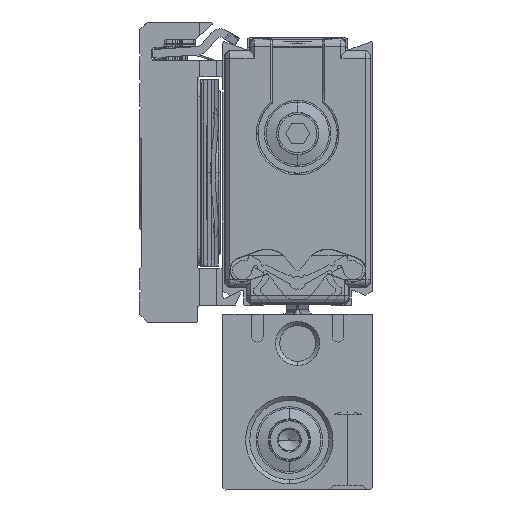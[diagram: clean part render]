
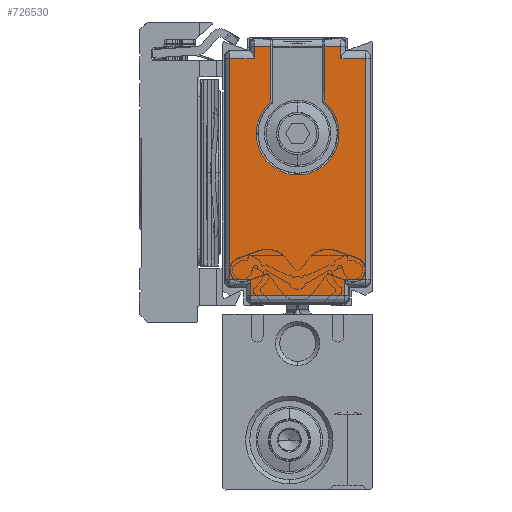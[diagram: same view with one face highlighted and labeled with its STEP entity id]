
A CAD part, left-side view. The second image highlights one B-rep face of the part: STEP entity #726530.
In plain terms, the highlighted planar face has unit normal (-1, 0, 0) as drawn and (0, 0, -1) by its records, which use the part's own axes.
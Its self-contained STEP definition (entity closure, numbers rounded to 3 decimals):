
#685690=CARTESIAN_POINT('',(24.688,30.224,-494.5));
#685700=VERTEX_POINT('',#685690);
#686750=CARTESIAN_POINT('',(31.365,35.75,-494.5));
#686760=DIRECTION('',(0.,-1.,0.));
#686770=VECTOR('',#686760,1.);
#686780=LINE('',#686750,#686770);
#686790=CARTESIAN_POINT('',(31.365,23.776,-494.5));
#686800=VERTEX_POINT('',#686790);
#686810=CARTESIAN_POINT('',(31.365,21.802,-494.5));
#686820=VERTEX_POINT('',#686810);
#686830=EDGE_CURVE('',#686800,#686820,#686780,.T.);
#693590=CARTESIAN_POINT('',(3.435,32.648,-494.5));
#693600=VERTEX_POINT('',#693590);
#693800=CARTESIAN_POINT('',(1.435,32.648,-494.5));
#693810=VERTEX_POINT('',#693800);
#693840=CARTESIAN_POINT('',(3.935,32.648,-494.5));
#693850=CARTESIAN_POINT('',(3.435,32.648,-494.5));
#693860=CARTESIAN_POINT('',(2.935,32.648,-494.5));
#693870=CARTESIAN_POINT('',(2.102,32.648,-494.5));
#693880=CARTESIAN_POINT('',(1.768,32.648,-494.5));
#693890=CARTESIAN_POINT('',(1.435,32.648,-494.5));
#693900=B_SPLINE_CURVE_WITH_KNOTS('',3,(#693840,#693850,#693860,#693870,
#693880,#693890),.UNSPECIFIED.,.F.,.F.,(4,2,4),(37.084,
38.584,39.584),.UNSPECIFIED.);
#693910=EDGE_CURVE('',#693600,#693810,#693900,.T.);
#695250=CARTESIAN_POINT('',(24.688,23.776,-494.5));
#695260=VERTEX_POINT('',#695250);
#697050=CARTESIAN_POINT('',(29.865,35.75,-494.5));
#697060=DIRECTION('',(0.,1.,0.));
#697070=VECTOR('',#697060,1.);
#697080=LINE('',#697050,#697070);
#697090=CARTESIAN_POINT('',(29.865,32.198,-494.5));
#697100=VERTEX_POINT('',#697090);
#697110=CARTESIAN_POINT('',(29.865,35.198,-494.5));
#697120=VERTEX_POINT('',#697110);
#697130=EDGE_CURVE('',#697100,#697120,#697080,.T.);
#698980=CARTESIAN_POINT('',(3.435,35.75,-494.5));
#698990=DIRECTION('',(0.,1.,0.));
#699000=VECTOR('',#698990,1.);
#699010=LINE('',#698980,#699000);
#699020=CARTESIAN_POINT('',(3.435,35.198,-494.5));
#699030=VERTEX_POINT('',#699020);
#699040=EDGE_CURVE('',#693600,#699030,#699010,.T.);
#699470=CARTESIAN_POINT('',(31.365,32.198,-494.5));
#699480=VERTEX_POINT('',#699470);
#699510=CARTESIAN_POINT('',(31.365,30.224,-494.5));
#699520=VERTEX_POINT('',#699510);
#699530=EDGE_CURVE('',#699480,#699520,#686780,.T.);
#700240=CARTESIAN_POINT('',(3.435,18.802,-494.5));
#700250=VERTEX_POINT('',#700240);
#700560=CARTESIAN_POINT('',(3.435,35.75,-494.5));
#700570=DIRECTION('',(0.,-1.,0.));
#700580=VECTOR('',#700570,1.);
#700590=LINE('',#700560,#700580);
#700600=CARTESIAN_POINT('',(3.435,21.352,-494.5));
#700610=VERTEX_POINT('',#700600);
#700620=EDGE_CURVE('',#700610,#700250,#700590,.T.);
#701470=CARTESIAN_POINT('',(1.435,21.352,-494.5));
#701480=VERTEX_POINT('',#701470);
#702950=CARTESIAN_POINT('',(3.935,21.352,-494.5));
#702960=CARTESIAN_POINT('',(3.435,21.352,-494.5));
#702970=CARTESIAN_POINT('',(2.935,21.352,-494.5));
#702980=CARTESIAN_POINT('',(2.102,21.352,-494.5));
#702990=CARTESIAN_POINT('',(1.768,21.352,-494.5));
#703000=CARTESIAN_POINT('',(1.435,21.352,-494.5));
#703010=B_SPLINE_CURVE_WITH_KNOTS('',3,(#702950,#702960,#702970,#702980,
#702990,#703000),.UNSPECIFIED.,.F.,.F.,(4,2,4),(37.084,
38.584,39.584),.UNSPECIFIED.);
#703020=EDGE_CURVE('',#700610,#701480,#703010,.T.);
#704200=CARTESIAN_POINT('',(1.435,35.75,-494.5));
#704210=DIRECTION('',(0.,1.,0.));
#704220=VECTOR('',#704210,1.);
#704230=LINE('',#704200,#704220);
#704240=EDGE_CURVE('',#701480,#693810,#704230,.T.);
#707990=CARTESIAN_POINT('',(0.15,30.224,-494.5));
#708000=DIRECTION('',(1.,0.,0.));
#708010=VECTOR('',#708000,1.);
#708020=LINE('',#707990,#708010);
#708030=EDGE_CURVE('',#685700,#699520,#708020,.T.);
#711770=CARTESIAN_POINT('',(29.865,21.802,-494.5));
#711780=VERTEX_POINT('',#711770);
#711830=CARTESIAN_POINT('',(29.365,21.802,-494.5));
#711840=CARTESIAN_POINT('',(29.782,21.802,-494.5));
#711850=CARTESIAN_POINT('',(30.198,21.802,-494.5));
#711860=CARTESIAN_POINT('',(30.865,21.802,-494.5));
#711870=CARTESIAN_POINT('',(31.115,21.802,-494.5));
#711880=CARTESIAN_POINT('',(31.365,21.802,-494.5));
#711890=B_SPLINE_CURVE_WITH_KNOTS('',3,(#711830,#711840,#711850,#711860,
#711870,#711880),.UNSPECIFIED.,.F.,.F.,(4,2,4),(37.587,
38.837,39.587),.UNSPECIFIED.);
#711900=EDGE_CURVE('',#711780,#686820,#711890,.T.);
#712230=CARTESIAN_POINT('',(29.365,32.198,-494.5));
#712240=CARTESIAN_POINT('',(29.782,32.198,-494.5));
#712250=CARTESIAN_POINT('',(30.198,32.198,-494.5));
#712260=CARTESIAN_POINT('',(30.865,32.198,-494.5));
#712270=CARTESIAN_POINT('',(31.115,32.198,-494.5));
#712280=CARTESIAN_POINT('',(31.365,32.198,-494.5));
#712290=B_SPLINE_CURVE_WITH_KNOTS('',3,(#712230,#712240,#712250,#712260,
#712270,#712280),.UNSPECIFIED.,.F.,.F.,(4,2,4),(37.587,
38.837,39.587),.UNSPECIFIED.);
#712300=EDGE_CURVE('',#697100,#699480,#712290,.T.);
#713290=CARTESIAN_POINT('',(29.865,18.802,-494.5));
#713300=VERTEX_POINT('',#713290);
#713330=CARTESIAN_POINT('',(3.435,18.802,-494.5));
#713340=CARTESIAN_POINT('',(7.84,18.802,-494.5));
#713350=CARTESIAN_POINT('',(12.245,18.802,-494.5));
#713360=CARTESIAN_POINT('',(21.055,18.802,-494.5));
#713370=CARTESIAN_POINT('',(25.46,18.802,-494.5));
#713380=CARTESIAN_POINT('',(29.865,18.802,-494.5));
#713390=B_SPLINE_CURVE_WITH_KNOTS('',3,(#713330,#713340,#713350,#713360,
#713370,#713380),.UNSPECIFIED.,.F.,.F.,(4,2,4),(24.334,
37.549,50.764),.UNSPECIFIED.);
#713400=EDGE_CURVE('',#700250,#713300,#713390,.T.);
#719730=CARTESIAN_POINT('',(29.865,35.75,-494.5));
#719740=DIRECTION('',(0.,-1.,0.));
#719750=VECTOR('',#719740,1.);
#719760=LINE('',#719730,#719750);
#719770=EDGE_CURVE('',#711780,#713300,#719760,.T.);
#720960=CARTESIAN_POINT('',(3.435,35.198,-494.5));
#720970=CARTESIAN_POINT('',(7.84,35.198,-494.5));
#720980=CARTESIAN_POINT('',(12.245,35.198,-494.5));
#720990=CARTESIAN_POINT('',(21.055,35.198,-494.5));
#721000=CARTESIAN_POINT('',(25.46,35.198,-494.5));
#721010=CARTESIAN_POINT('',(29.865,35.198,-494.5));
#721020=B_SPLINE_CURVE_WITH_KNOTS('',3,(#720960,#720970,#720980,#720990,
#721000,#721010),.UNSPECIFIED.,.F.,.F.,(4,2,4),(24.308,
37.523,50.738),.UNSPECIFIED.);
#721030=EDGE_CURVE('',#699030,#697120,#721020,.T.);
#726020=CARTESIAN_POINT('',(20.9,27.,-494.5));
#726030=DIRECTION('',(0.,0.,-1.));
#726040=DIRECTION('',(0.,1.,0.));
#726050=AXIS2_PLACEMENT_3D('',#726020,#726030,#726040);
#726060=CIRCLE('',#726050,4.974);
#726070=EDGE_CURVE('',#695260,#685700,#726060,.T.);
#726250=CARTESIAN_POINT('',(16.65,27.,-494.5));
#726260=DIRECTION('',(0.,0.,1.));
#726270=DIRECTION('',(0.,1.,0.));
#726280=AXIS2_PLACEMENT_3D('',#726250,#726260,#726270);
#726290=PLANE('',#726280);
#726300=ORIENTED_EDGE('',*,*,#726070,.F.);
#726310=ORIENTED_EDGE('',*,*,#708030,.F.);
#726320=ORIENTED_EDGE('',*,*,#699530,.T.);
#726330=ORIENTED_EDGE('',*,*,#712300,.T.);
#726340=ORIENTED_EDGE('',*,*,#697130,.F.);
#726350=ORIENTED_EDGE('',*,*,#721030,.T.);
#726360=ORIENTED_EDGE('',*,*,#699040,.T.);
#726370=ORIENTED_EDGE('',*,*,#693910,.F.);
#726380=ORIENTED_EDGE('',*,*,#704240,.T.);
#726390=ORIENTED_EDGE('',*,*,#703020,.T.);
#726400=ORIENTED_EDGE('',*,*,#700620,.F.);
#726410=ORIENTED_EDGE('',*,*,#713400,.F.);
#726420=ORIENTED_EDGE('',*,*,#719770,.T.);
#726430=ORIENTED_EDGE('',*,*,#711900,.F.);
#726440=ORIENTED_EDGE('',*,*,#686830,.T.);
#726450=CARTESIAN_POINT('',(0.15,23.776,-494.5));
#726460=DIRECTION('',(-1.,0.,0.));
#726470=VECTOR('',#726460,1.);
#726480=LINE('',#726450,#726470);
#726490=EDGE_CURVE('',#686800,#695260,#726480,.T.);
#726500=ORIENTED_EDGE('',*,*,#726490,.F.);
#726510=EDGE_LOOP('',(#726500,#726440,#726430,#726420,#726410,#726400,
#726390,#726380,#726370,#726360,#726350,#726340,#726330,#726320,#726310,
#726300));
#726520=FACE_OUTER_BOUND('',#726510,.T.);
#726530=ADVANCED_FACE('',(#726520),#726290,.F.);
